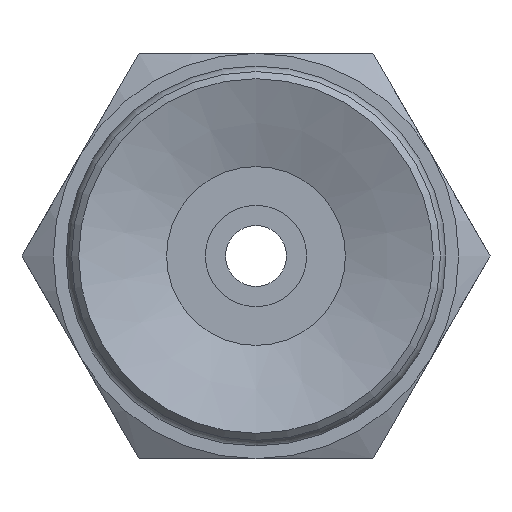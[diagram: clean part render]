
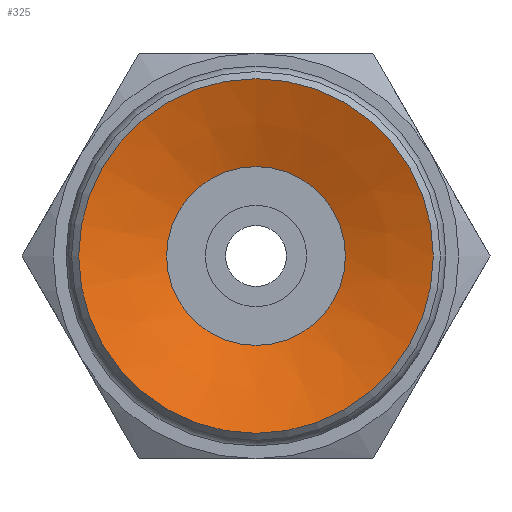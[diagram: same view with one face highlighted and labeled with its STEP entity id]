
A CAD part, front view. The second image highlights one B-rep face of the part: STEP entity #325.
In plain terms, the highlighted conical face has half-angle 70 degrees and reference radius 3.5 mm.
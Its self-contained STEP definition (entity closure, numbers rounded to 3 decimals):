
#325=ADVANCED_FACE('',(#489,#490),#491,.F.);
#489=FACE_BOUND('',#664,.T.);
#490=FACE_OUTER_BOUND('',#665,.T.);
#491=CONICAL_SURFACE('',#666,3.5,1.222);
#664=EDGE_LOOP('',(#996));
#665=EDGE_LOOP('',(#997));
#666=AXIS2_PLACEMENT_3D('',#998,#999,#1000);
#996=ORIENTED_EDGE('',*,*,#1100,.F.);
#997=ORIENTED_EDGE('',*,*,#1079,.T.);
#998=CARTESIAN_POINT('',(0.0,0.0,0.0));
#999=DIRECTION('',(-0.0,-1.0,0.));
#1000=DIRECTION('',(0.0,0.,-1.0));
#1079=EDGE_CURVE('',#1199,#1199,#1200,.T.);
#1100=EDGE_CURVE('',#1241,#1241,#1242,.T.);
#1199=VERTEX_POINT('',#1381);
#1200=CIRCLE('',#1382,3.5);
#1241=VERTEX_POINT('',#1423);
#1242=CIRCLE('',#1424,1.765);
#1381=CARTESIAN_POINT('',(0.0,0.,-3.5));
#1382=AXIS2_PLACEMENT_3D('',#1532,#1533,#1534);
#1423=CARTESIAN_POINT('',(0.0,0.632,-1.765));
#1424=AXIS2_PLACEMENT_3D('',#1595,#1596,#1597);
#1532=CARTESIAN_POINT('',(0.0,0.0,0.0));
#1533=DIRECTION('',(0.0,-1.0,0.));
#1534=DIRECTION('',(0.0,0.,-1.0));
#1595=CARTESIAN_POINT('',(0.0,0.632,0.0));
#1596=DIRECTION('',(0.0,-1.0,0.));
#1597=DIRECTION('',(0.0,0.,-1.0));
